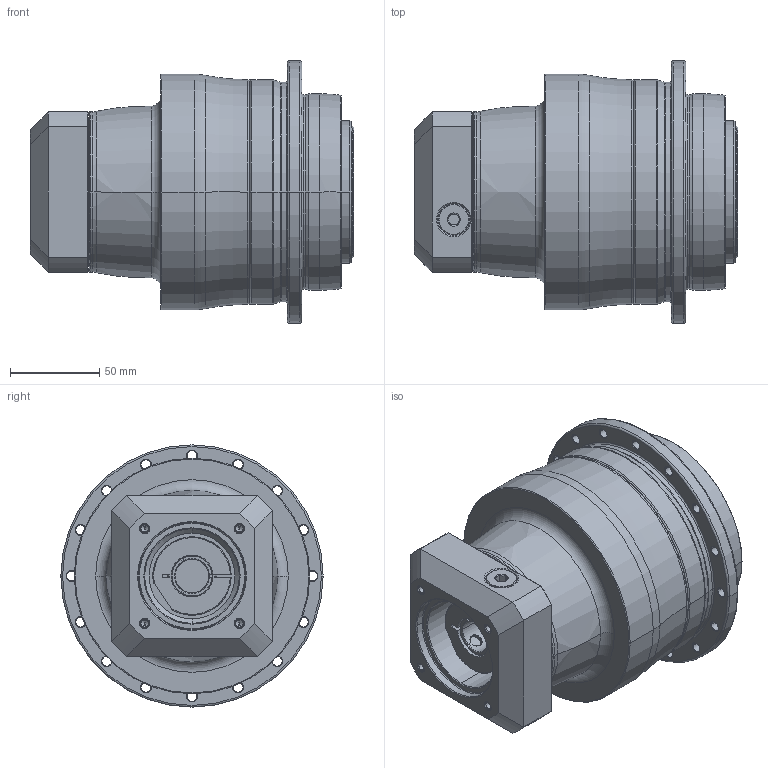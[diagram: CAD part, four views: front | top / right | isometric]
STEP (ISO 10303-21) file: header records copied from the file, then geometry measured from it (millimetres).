
FILE_DESCRIPTION((''),'2;1');
FILE_NAME('AP110_3ST_19-P0409400201_ASM','2018-06-05T',('d01226'),(''),'PRO/ENGINEER BY PARAMETRIC TECHNOLOGY CORPORATION, 2008410','PRO/ENGINEER BY PARAMETRIC TECHNOLOGY CORPORATION, 2008410','');
FILE_SCHEMA(('CONFIG_CONTROL_DESIGN'));
Length unit declared in the file: millimetre
Products named in the file (9): P0278401003; P0359401103; P1366400301; P0503400006; P0912203001; P1211400001; P0409400201; 21711412017; AP110_3ST_19-P0409400201_ASM
Assembly tree (8 placements, depth 2):
  AP110_3ST_19-P0409400201_ASM
    P0278401003
    P0359401103
    P1366400301
    P0503400006
    P0912203001
    P1211400001
    P0409400201
    21711412017
Bounding box: 181 x 147 x 147 mm (x, y, z)
Volume: 1699754.3 mm3; surface area: 194790.7 mm2
Topology: 9 solids, 30 shells, 567 faces, 1305 edges, 800 vertices
Faces by surface type: cylinder 228, cone 148, plane 99, torus 76, bspline 16
Entity records: 20764 total; most frequent: CARTESIAN_POINT 7236, DIRECTION 3111, ORIENTED_EDGE 2508, AXIS2_PLACEMENT_3D 1335, EDGE_CURVE 1297, VERTEX_POINT 800, CIRCLE 757, EDGE_LOOP 691
